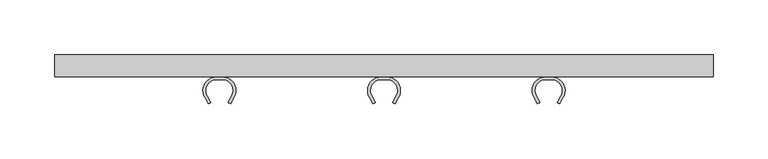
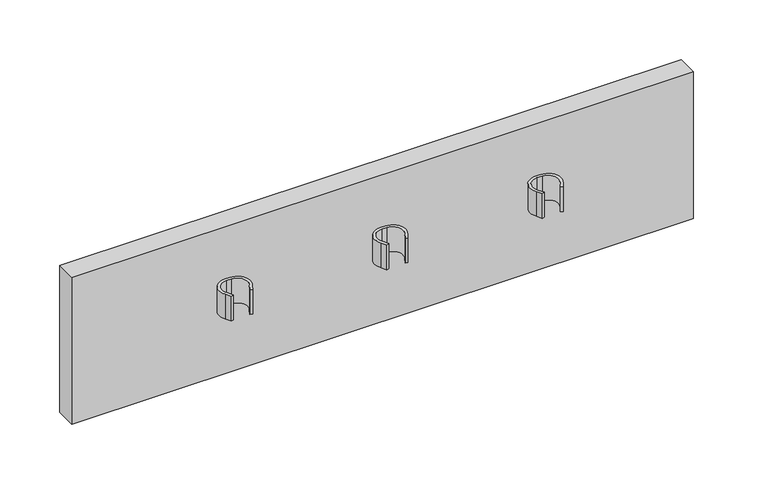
"""IFC4 building model written with IfcOpenShell, lengths in millimetres: proxy geometry, BIMHealth-Equipment_hooks-LOD2A-v1 : BIMHealth-Equipment_hooks-LOD2A-v1."""

import ifcopenshell
import ifcopenshell.guid

model = None  # the IFC model being written
_history = None  # IfcOwnerHistory: only IFC2X3 demands one
_inside = {}  # id of a spatial element -> (the spatial element, [elements in it])
_under = {}  # id of a project, library or spatial element -> (it, [spatial elements below it])
_declared = {}  # id of a project -> (the project, [libraries it declares])
_typed = {}  # id of a type object -> (the type object, [elements of that type])
_made_of = {}  # id of a material, layer set ... -> (it, [elements and type objects made of it])


def new_model(schema):
    """Start an empty IFC model of exactly this schema.

    Asked for "IFC4X3", IfcOpenShell would pick the latest addendum, in which some entities
    have other attributes; the version numbers below select the first issue.
    IFC2X3 requires an IfcOwnerHistory on every rooted entity: one is made here for all.
    """
    global model, _history
    if schema == "IFC4X3":
        model = ifcopenshell.file(schema_version=(4, 3, 0, 0))
    else:
        model = ifcopenshell.file(schema=schema)
    _inside.clear()
    _under.clear()
    _declared.clear()
    _typed.clear()
    _made_of.clear()
    _history = None
    if model.schema == "IFC2X3":
        org = make("IfcOrganization", Name="unknown")
        user = make(
            "IfcPersonAndOrganization",
            ThePerson=make("IfcPerson", FamilyName="unknown"),
            TheOrganization=org,
        )
        app = make(
            "IfcApplication",
            ApplicationDeveloper=org,
            Version="unknown",
            ApplicationFullName="unknown",
            ApplicationIdentifier="unknown",
        )
        _history = make(
            "IfcOwnerHistory",
            OwningUser=user,
            OwningApplication=app,
            ChangeAction="ADDED",
            CreationDate=0,
        )
    return model


def make(cls, **values):
    """One entity of the class cls with the attributes given. An attribute that is None is left unset."""
    return model.create_entity(
        cls, **{name: value for name, value in values.items() if value is not None}
    )


def rooted(cls, **values):
    """An entity with a GlobalId (a new one), such as an element, a storey or a relation."""
    return make(cls, GlobalId=ifcopenshell.guid.new(), OwnerHistory=_history, **values)


def si_unit(unit_type, name, prefix=None):
    """IfcSIUnit, for example si_unit("LENGTHUNIT", "METRE", prefix="MILLI")."""
    return make("IfcSIUnit", UnitType=unit_type, Prefix=prefix, Name=name)


def assignment(units):
    """IfcUnitAssignment: the units of a project."""
    return None if units is None else make("IfcUnitAssignment", Units=units)


def point(xyz):
    """IfcCartesianPoint."""
    return None if xyz is None else make("IfcCartesianPoint", Coordinates=xyz)


def direction(xyz):
    """IfcDirection."""
    return None if xyz is None else make("IfcDirection", DirectionRatios=xyz)


def frame(location, z_axis=None, x_axis=None):
    """IfcAxis2Placement3D, a coordinate frame: its origin and axes. An axis left out is left unset."""
    return make(
        "IfcAxis2Placement3D",
        Location=point(location),
        Axis=direction(z_axis),
        RefDirection=direction(x_axis),
    )


def frame_2d(location, x_axis=None):
    """IfcAxis2Placement2D, a coordinate frame in the plane: its origin and x axis."""
    return make(
        "IfcAxis2Placement2D", Location=point(location), RefDirection=direction(x_axis)
    )


def origin():
    """The frame at (0, 0, 0) with its axes left unset."""
    return frame((0.0, 0.0, 0.0))


def place(relative_to, where):
    """IfcLocalPlacement: puts the frame where relative to a parent placement (None: the world)."""
    return make(
        "IfcLocalPlacement", PlacementRelTo=relative_to, RelativePlacement=where
    )


def context(
    kind, dimensions, precision=None, world=None, true_north=None, identifier=None
):
    """IfcGeometricRepresentationContext, for example the 3D "Model" context."""
    return make(
        "IfcGeometricRepresentationContext",
        ContextIdentifier=identifier,
        ContextType=kind,
        CoordinateSpaceDimension=dimensions,
        Precision=precision,
        WorldCoordinateSystem=world,
        TrueNorth=true_north,
    )


def project(units=None, contexts=None):
    """IfcProject with its units and contexts."""
    return rooted(
        "IfcProject",
        Name="project",
        RepresentationContexts=contexts,
        UnitsInContext=assignment(units),
    )


def spatial(cls, under=None, at=None, **own):
    """A site, building, storey or space (cls), placed at a placement, below another one or the project."""
    s = rooted(cls, ObjectPlacement=at, **own)
    if under is not None:
        _under.setdefault(under.id(), (under, []))[1].append(s)
    return s


def polyline(points):
    """IfcPolyline through the points."""
    return make("IfcPolyline", Points=[point(p) for p in points])


def circle_curve(where, radius):
    """IfcCircle in the frame where."""
    return make("IfcCircle", Position=where, Radius=radius)


def trimmed(basis, trim1, trim2, sense, master):
    """IfcTrimmedCurve: the piece of a basis curve between two trims."""
    return make(
        "IfcTrimmedCurve",
        BasisCurve=basis,
        Trim1=trim1,
        Trim2=trim2,
        SenseAgreement=sense,
        MasterRepresentation=master,
    )


def segment(curve, same_sense, transition):
    """IfcCompositeCurveSegment."""
    return make(
        "IfcCompositeCurveSegment",
        Transition=transition,
        SameSense=same_sense,
        ParentCurve=curve,
    )


def composite_curve(segments, self_intersect=None):
    """IfcCompositeCurve: segments joined end to end."""
    return make("IfcCompositeCurve", Segments=segments, SelfIntersect=self_intersect)


def outline(outer, holes=None, kind="AREA"):
    """IfcArbitraryClosedProfileDef: a profile drawn as a closed curve; with holes, ...WithVoids."""
    if holes is None:
        return make("IfcArbitraryClosedProfileDef", ProfileType=kind, OuterCurve=outer)
    return make(
        "IfcArbitraryProfileDefWithVoids",
        ProfileType=kind,
        OuterCurve=outer,
        InnerCurves=holes,
    )


def extrude(swept, where, along, depth):
    """IfcExtrudedAreaSolid: the profile swept, set in the frame where, extruded along a direction by depth."""
    return make(
        "IfcExtrudedAreaSolid",
        SweptArea=swept,
        Position=where,
        ExtrudedDirection=direction(along),
        Depth=depth,
    )


def shape(context_of_items, identifier, shape_type, items):
    """IfcShapeRepresentation: the items that make up one representation, for example the "Body"."""
    return make(
        "IfcShapeRepresentation",
        ContextOfItems=context_of_items,
        RepresentationIdentifier=identifier,
        RepresentationType=shape_type,
        Items=items,
    )


def source(mapping_origin, context_of_items, identifier, shape_type, items):
    """IfcRepresentationMap: a shape defined once, which mapped items show again and again."""
    return make(
        "IfcRepresentationMap",
        MappingOrigin=mapping_origin,
        MappedRepresentation=shape(context_of_items, identifier, shape_type, items),
    )


def transform(
    local_origin,
    x_axis=None,
    y_axis=None,
    z_axis=None,
    scale=None,
    scale2=None,
    scale3=None,
    uniform=True,
):
    """IfcCartesianTransformationOperator3D, or its non-uniform kind. x_axis, y_axis, z_axis: its Axis1, 2, 3."""
    if uniform:
        return make(
            "IfcCartesianTransformationOperator3D",
            Axis1=direction(x_axis),
            Axis2=direction(y_axis),
            LocalOrigin=point(local_origin),
            Scale=scale,
            Axis3=direction(z_axis),
        )
    return make(
        "IfcCartesianTransformationOperator3DnonUniform",
        Axis1=direction(x_axis),
        Axis2=direction(y_axis),
        LocalOrigin=point(local_origin),
        Scale=scale,
        Axis3=direction(z_axis),
        Scale2=scale2,
        Scale3=scale3,
    )


def mapped(mapping_source, mapping_target):
    """IfcMappedItem: shows the shape of a source again, moved by a transform."""
    return make(
        "IfcMappedItem", MappingSource=mapping_source, MappingTarget=mapping_target
    )


def made_of(thing, what):
    """Note that an element or type object is made of a material, layer set ...; save() writes the relation."""
    if what is not None:
        _made_of.setdefault(what.id(), (what, []))[1].append(thing)
    return thing


def element(
    cls,
    number,
    at=None,
    inside=None,
    cuts=None,
    type_object=None,
    material=None,
    context=None,
    identifier="Body",
    shape_type=None,
    held_by="IfcProductDefinitionShape",
    body=None,
    shapes=None,
    **own,
):
    """One element of the class cls, such as IfcWall. Its Tag is "e" and its number.

    at: its placement. inside: the storey or other place that contains it. cuts: it is an
    opening in that element (IfcRelVoidsElement). A single representation is given by context,
    identifier, shape_type and body (its items); several are given by shapes. held_by: the class
    of the entity that holds the representations. save() writes the other relations.
    """
    e = rooted(cls, Tag="e%d" % number, ObjectPlacement=at, **own)
    if body is not None:
        shapes = [shape(context, identifier, shape_type, body)]
    if shapes is not None:
        e.Representation = make(held_by, Representations=shapes)
    if inside is not None:
        _inside.setdefault(inside.id(), (inside, []))[1].append(e)
    if cuts is not None:
        rooted(
            "IfcRelVoidsElement", RelatingBuildingElement=cuts, RelatedOpeningElement=e
        )
    if type_object is not None:
        _typed.setdefault(type_object.id(), (type_object, []))[1].append(e)
    return made_of(e, material)


def aggregate(whole, parts):
    """IfcRelAggregates: a whole, such as a stair, and the parts it consists of."""
    return rooted("IfcRelAggregates", RelatingObject=whole, RelatedObjects=parts)


def save(model, path):
    """Write the relations noted so far, then the file.

    IfcRelAggregates (storeys below a building ...), IfcRelContainedInSpatialStructure (elements
    in a storey), IfcRelDefinesByType, IfcRelAssociatesMaterial and IfcRelDeclares: one each for
    every whole, place, type object, material and project.
    """
    for whole, parts in _under.values():
        aggregate(whole, parts)
    for where, things in _inside.values():
        rooted(
            "IfcRelContainedInSpatialStructure",
            RelatedElements=things,
            RelatingStructure=where,
        )
    for kind, things in _typed.values():
        rooted("IfcRelDefinesByType", RelatedObjects=things, RelatingType=kind)
    for what, things in _made_of.values():
        rooted("IfcRelAssociatesMaterial", RelatedObjects=things, RelatingMaterial=what)
    for by, libraries in _declared.values():
        rooted("IfcRelDeclares", RelatingContext=by, RelatedDefinitions=libraries)
    model.write(path)


def generic_models_3e1c2cfb(model_context):
    return source(origin(), model_context, "Body", "SweptSolid", [
        extrude(outline(composite_curve([segment(trimmed(circle_curve(frame_2d((410.4511192, -56.1657647)), 31.4623474), [point((439.7381605, -44.670178))], [point((436.9657352, -39.2289869))], True, "CARTESIAN"), True, "CONTINUOUS"), segment(trimmed(circle_curve(frame_2d((447.5, -32.5)), 12.5), [point((436.9657352, -39.2289869))], [point((447.5, -20.0))], False, "CARTESIAN"), True, "CONTINUOUS"), segment(polyline([(447.5, -20.0), (452.5, -20.0)]), True, "CONTINUOUS"), segment(trimmed(circle_curve(frame_2d((452.5, -32.5)), 12.5), [point((452.5, -20.0))], [point((463.0342648, -39.2289869))], False, "CARTESIAN"), True, "CONTINUOUS"), segment(trimmed(circle_curve(frame_2d((489.5488808, -56.1657647)), 31.4623474), [point((463.0342648, -39.2289869))], [point((460.2618395, -44.670178))], True, "CARTESIAN"), True, "CONTINUOUS"), segment(polyline([(460.2618395, -44.670178), (457.9346894, -43.756738)]), True, "CONTINUOUS"), segment(trimmed(circle_curve(frame_2d((489.5488808, -56.1657647)), 33.9623474), [point((457.9346894, -43.756738))], [point((460.9274119, -37.8831895))], False, "CARTESIAN"), True, "CONTINUOUS"), segment(trimmed(circle_curve(frame_2d((452.5, -32.5)), 10.0), [point((460.9274119, -37.8831895))], [point((452.5, -22.5))], True, "CARTESIAN"), True, "CONTINUOUS"), segment(polyline([(452.5, -22.5), (447.5, -22.5)]), True, "CONTINUOUS"), segment(trimmed(circle_curve(frame_2d((447.5, -32.5)), 10.0), [point((447.5, -22.5))], [point((439.0725881, -37.8831895))], True, "CARTESIAN"), True, "CONTINUOUS"), segment(trimmed(circle_curve(frame_2d((410.4511192, -56.1657647)), 33.9623474), [point((439.0725881, -37.8831895))], [point((442.0653106, -43.756738))], False, "CARTESIAN"), True, "CONTINUOUS"), segment(polyline([(442.0653106, -43.756738), (439.7381605, -44.670178)]), True, "CONTINUOUS")], self_intersect=False)), frame((0.0, 0.0, 1871.2116831), z_axis=(0.0, 0.0, 1.0), x_axis=(1.0, 0.0, 0.0)), (0.0, 0.0, 1.0), 25.2474942),
        extrude(outline(composite_curve([segment(trimmed(circle_curve(frame_2d((260.4511192, -56.1657647)), 31.4623474), [point((289.7381605, -44.670178))], [point((286.9657352, -39.2289869))], True, "CARTESIAN"), True, "CONTINUOUS"), segment(trimmed(circle_curve(frame_2d((297.5, -32.5)), 12.5), [point((286.9657352, -39.2289869))], [point((297.5, -20.0))], False, "CARTESIAN"), True, "CONTINUOUS"), segment(polyline([(297.5, -20.0), (302.5, -20.0)]), True, "CONTINUOUS"), segment(trimmed(circle_curve(frame_2d((302.5, -32.5)), 12.5), [point((302.5, -20.0))], [point((313.0342648, -39.2289869))], False, "CARTESIAN"), True, "CONTINUOUS"), segment(trimmed(circle_curve(frame_2d((339.5488808, -56.1657647)), 31.4623474), [point((313.0342648, -39.2289869))], [point((310.2618395, -44.670178))], True, "CARTESIAN"), True, "CONTINUOUS"), segment(polyline([(310.2618395, -44.670178), (307.9346894, -43.756738)]), True, "CONTINUOUS"), segment(trimmed(circle_curve(frame_2d((339.5488808, -56.1657647)), 33.9623474), [point((307.9346894, -43.756738))], [point((310.9274119, -37.8831895))], False, "CARTESIAN"), True, "CONTINUOUS"), segment(trimmed(circle_curve(frame_2d((302.5, -32.5)), 10.0), [point((310.9274119, -37.8831895))], [point((302.5, -22.5))], True, "CARTESIAN"), True, "CONTINUOUS"), segment(polyline([(302.5, -22.5), (297.5, -22.5)]), True, "CONTINUOUS"), segment(trimmed(circle_curve(frame_2d((297.5, -32.5)), 10.0), [point((297.5, -22.5))], [point((289.0725881, -37.8831895))], True, "CARTESIAN"), True, "CONTINUOUS"), segment(trimmed(circle_curve(frame_2d((260.4511192, -56.1657647)), 33.9623474), [point((289.0725881, -37.8831895))], [point((292.0653106, -43.756738))], False, "CARTESIAN"), True, "CONTINUOUS"), segment(polyline([(292.0653106, -43.756738), (289.7381605, -44.670178)]), True, "CONTINUOUS")], self_intersect=False)), frame((0.0, 0.0, 1871.2116831), z_axis=(0.0, 0.0, 1.0), x_axis=(1.0, 0.0, 0.0)), (0.0, 0.0, 1.0), 25.2474942),
        extrude(outline(composite_curve([segment(trimmed(circle_curve(frame_2d((110.4511192, -56.1657647)), 31.4623474), [point((139.7381605, -44.670178))], [point((136.9657352, -39.2289869))], True, "CARTESIAN"), True, "CONTINUOUS"), segment(trimmed(circle_curve(frame_2d((147.5, -32.5)), 12.5), [point((136.9657352, -39.2289869))], [point((147.5, -20.0))], False, "CARTESIAN"), True, "CONTINUOUS"), segment(polyline([(147.5, -20.0), (152.5, -20.0)]), True, "CONTINUOUS"), segment(trimmed(circle_curve(frame_2d((152.5, -32.5)), 12.5), [point((152.5, -20.0))], [point((163.0342648, -39.2289869))], False, "CARTESIAN"), True, "CONTINUOUS"), segment(trimmed(circle_curve(frame_2d((189.5488808, -56.1657647)), 31.4623474), [point((163.0342648, -39.2289869))], [point((160.2618395, -44.670178))], True, "CARTESIAN"), True, "CONTINUOUS"), segment(polyline([(160.2618395, -44.670178), (157.9346894, -43.756738)]), True, "CONTINUOUS"), segment(trimmed(circle_curve(frame_2d((189.5488808, -56.1657647)), 33.9623474), [point((157.9346894, -43.756738))], [point((160.9274119, -37.8831895))], False, "CARTESIAN"), True, "CONTINUOUS"), segment(trimmed(circle_curve(frame_2d((152.5, -32.5)), 10.0), [point((160.9274119, -37.8831895))], [point((152.5, -22.5))], True, "CARTESIAN"), True, "CONTINUOUS"), segment(polyline([(152.5, -22.5), (147.5, -22.5)]), True, "CONTINUOUS"), segment(trimmed(circle_curve(frame_2d((147.5, -32.5)), 10.0), [point((147.5, -22.5))], [point((139.0725881, -37.8831895))], True, "CARTESIAN"), True, "CONTINUOUS"), segment(trimmed(circle_curve(frame_2d((110.4511192, -56.1657647)), 33.9623474), [point((139.0725881, -37.8831895))], [point((142.0653106, -43.756738))], False, "CARTESIAN"), True, "CONTINUOUS"), segment(polyline([(142.0653106, -43.756738), (139.7381605, -44.670178)]), True, "CONTINUOUS")], self_intersect=False)), frame((0.0, 0.0, 1871.2116831), z_axis=(0.0, 0.0, 1.0), x_axis=(1.0, 0.0, 0.0)), (0.0, 0.0, 1.0), 25.2474942),
        extrude(outline(polyline([(600.0, 0.0), (600.0, -20.0), (0.0, -20.0), (0.0, 0.0), (600.0, 0.0)])), frame((0.0, 0.0, 1800.0), z_axis=(0.0, 0.0, 1.0), x_axis=(1.0, 0.0, 0.0)), (0.0, 0.0, 1.0), 150.0),
    ])


if __name__ == "__main__":
    model = new_model("IFC4")
    model_context = context("Model", 3, world=origin())
    ifc_project = project(units=[si_unit("LENGTHUNIT", "METRE", prefix="MILLI")], contexts=[model_context])
    site = spatial("IfcSite", under=ifc_project)
    building = spatial("IfcBuilding", under=site)
    placement = place(None, origin())
    generic_models_shape = generic_models_3e1c2cfb(model_context)
    element("IfcBuildingElementProxy", 1, Name="BIMHealth-Equipment_hooks-LOD2A-v1 : BIMHealth-Equipment_hooks-LOD2A-v1", ObjectType="BIMHealth-Equipment_hooks-LOD2A-v1 : BIMHealth-Equipment_hooks-LOD2A-v1", at=placement, inside=building, context=model_context, shape_type="MappedRepresentation", body=[
        mapped(generic_models_shape, transform((0.0, 0.0, 0.0), x_axis=(1.0, 0.0, 0.0), y_axis=(0.0, 1.0, 0.0), z_axis=(0.0, 0.0, 1.0))),
    ])
    save(model, "model.ifc")
